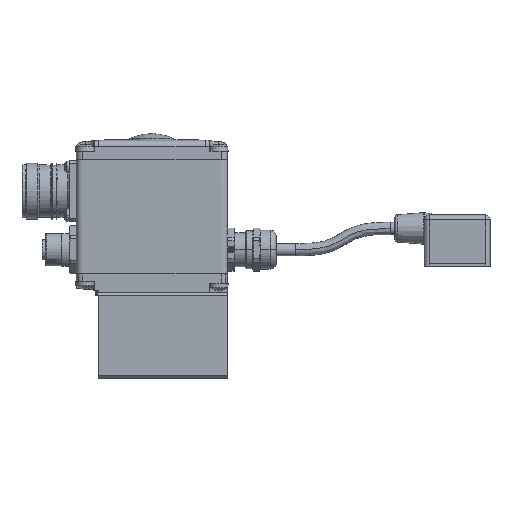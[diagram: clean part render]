
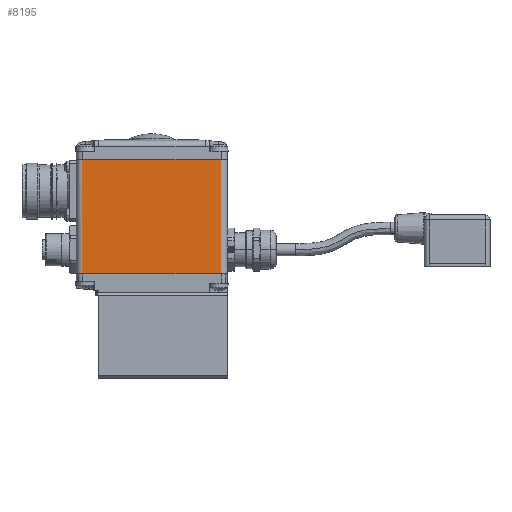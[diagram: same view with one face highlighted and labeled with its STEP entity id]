
A CAD part, top view. The second image highlights one B-rep face of the part: STEP entity #8195.
In plain terms, the highlighted planar face has unit normal (0, 0, 1).
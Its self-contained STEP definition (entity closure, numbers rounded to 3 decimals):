
#8195 = ADVANCED_FACE ( 'NONE', ( #54645 ), #37590, .F. ) ;
#9955 = ORIENTED_EDGE ( 'NONE', *, *, #57955, .F. ) ;
#9956 = ORIENTED_EDGE ( 'NONE', *, *, #58364, .F. ) ;
#9958 = ORIENTED_EDGE ( 'NONE', *, *, #57968, .T. ) ;
#9960 = ORIENTED_EDGE ( 'NONE', *, *, #57928, .T. ) ;
#30725 = CARTESIAN_POINT ( 'NONE',  ( -2.5, 25.3, 17.65 ) ) ;
#30741 = CARTESIAN_POINT ( 'NONE',  ( -2.5, 72.3, 17.65 ) ) ;
#37590 = PLANE ( 'NONE',  #116088 ) ;
#37610 = CARTESIAN_POINT ( 'NONE',  ( -59.5, 72.3, 17.65 ) ) ;
#37611 = DIRECTION ( 'NONE',  ( 0., 0., -1. ) ) ;
#37612 = DIRECTION ( 'NONE',  ( 1., 0., 0. ) ) ;
#41200 = DIRECTION ( 'NONE',  ( 0., -1., 0. ) ) ;
#41203 = CARTESIAN_POINT ( 'NONE',  ( -59.5, 72.3, 17.65 ) ) ;
#41233 = CARTESIAN_POINT ( 'NONE',  ( -59.5, 25.3, 17.65 ) ) ;
#41234 = DIRECTION ( 'NONE',  ( -1., 0., 0. ) ) ;
#41252 = CARTESIAN_POINT ( 'NONE',  ( -59.5, 72.3, 17.65 ) ) ;
#41253 = DIRECTION ( 'NONE',  ( -1., 0., 0. ) ) ;
#51089 = CARTESIAN_POINT ( 'NONE',  ( -2.5, 72.3, 17.65 ) ) ;
#51090 = DIRECTION ( 'NONE',  ( 0., -1., 0. ) ) ;
#51670 = LINE ( 'NONE', #51089, #51671 ) ;
#51671 = VECTOR ( 'NONE', #51090, 1000. ) ;
#54645 = FACE_OUTER_BOUND ( 'NONE', #101079, .T. ) ;
#56622 = LINE ( 'NONE', #41203, #56631 ) ;
#56631 = VECTOR ( 'NONE', #41200, 1000. ) ;
#56660 = LINE ( 'NONE', #41233, #56664 ) ;
#56664 = VECTOR ( 'NONE', #41234, 1000. ) ;
#56681 = LINE ( 'NONE', #41252, #56688 ) ;
#56688 = VECTOR ( 'NONE', #41253, 1000. ) ;
#57928 = EDGE_CURVE ( 'NONE', #100904, #100890, #56622, .T. ) ;
#57955 = EDGE_CURVE ( 'NONE', #62053, #100890, #56660, .T. ) ;
#57968 = EDGE_CURVE ( 'NONE', #62062, #100904, #56681, .T. ) ;
#58364 = EDGE_CURVE ( 'NONE', #62062, #62053, #51670, .T. ) ;
#62053 = VERTEX_POINT ( 'NONE', #30725 ) ;
#62062 = VERTEX_POINT ( 'NONE', #30741 ) ;
#80517 = CARTESIAN_POINT ( 'NONE',  ( -59.5, 25.3, 17.65 ) ) ;
#80541 = CARTESIAN_POINT ( 'NONE',  ( -59.5, 72.3, 17.65 ) ) ;
#100890 = VERTEX_POINT ( 'NONE', #80517 ) ;
#100904 = VERTEX_POINT ( 'NONE', #80541 ) ;
#101079 = EDGE_LOOP ( 'NONE', ( #9955, #9956, #9958, #9960 ) ) ;
#116088 = AXIS2_PLACEMENT_3D ( 'NONE', #37610, #37611, #37612 ) ;
